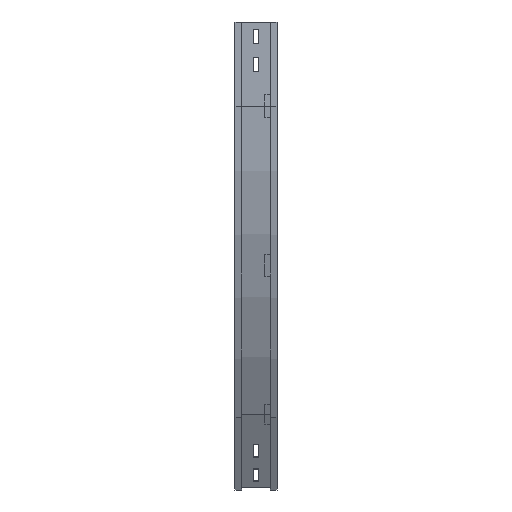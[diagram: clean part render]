
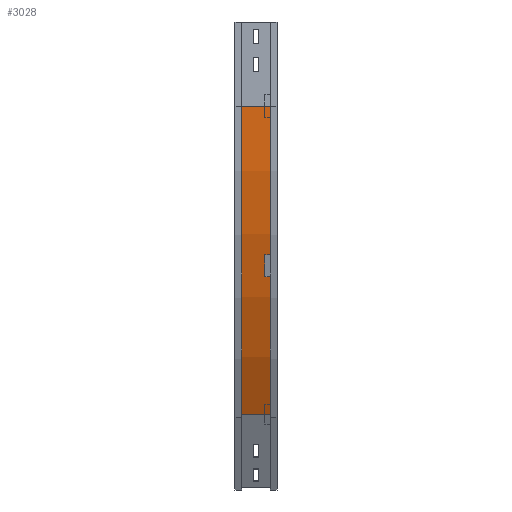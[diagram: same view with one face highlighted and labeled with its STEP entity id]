
A CAD part, left-side view. The second image highlights one B-rep face of the part: STEP entity #3028.
In plain terms, the highlighted cylindrical face has radius 1100 mm (diameter 2200 mm), a partial arc.
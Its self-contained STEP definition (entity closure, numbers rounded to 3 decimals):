
#359 = EDGE_CURVE ( 'NONE', #1405, #1755, #3126, .T. ) ;
#401 = CARTESIAN_POINT ( 'NONE',  ( 9., 63., -150. ) ) ;
#449 = LINE ( 'NONE', #3027, #3227 ) ;
#467 = AXIS2_PLACEMENT_3D ( 'NONE', #2019, #2493, #1202 ) ;
#567 = ORIENTED_EDGE ( 'NONE', *, *, #1302, .F. ) ;
#578 = CIRCLE ( 'NONE', #875, 1100. ) ;
#618 = VERTEX_POINT ( 'NONE', #2246 ) ;
#619 = AXIS2_PLACEMENT_3D ( 'NONE', #1694, #2744, #1364 ) ;
#623 = CARTESIAN_POINT ( 'NONE',  ( 9., 12., -150. ) ) ;
#875 = AXIS2_PLACEMENT_3D ( 'NONE', #1988, #976, #2499 ) ;
#976 = DIRECTION ( 'NONE',  ( 0., -1., 0. ) ) ;
#993 = CARTESIAN_POINT ( 'NONE',  ( 156.372, 12., -700. ) ) ;
#1202 = DIRECTION ( 'NONE',  ( 0., 0., -1. ) ) ;
#1302 = EDGE_CURVE ( 'NONE', #1755, #1336, #1358, .T. ) ;
#1336 = VERTEX_POINT ( 'NONE', #993 ) ;
#1358 = CIRCLE ( 'NONE', #619, 1100. ) ;
#1364 = DIRECTION ( 'NONE',  ( -1., 0., 0. ) ) ;
#1405 = VERTEX_POINT ( 'NONE', #401 ) ;
#1456 = FACE_OUTER_BOUND ( 'NONE', #1806, .T. ) ;
#1694 = CARTESIAN_POINT ( 'NONE',  ( 1109., 12., -150. ) ) ;
#1755 = VERTEX_POINT ( 'NONE', #623 ) ;
#1786 = ORIENTED_EDGE ( 'NONE', *, *, #359, .F. ) ;
#1806 = EDGE_LOOP ( 'NONE', ( #567, #1786, #2079, #2687 ) ) ;
#1826 = DIRECTION ( 'NONE',  ( 0., -1., 0. ) ) ;
#1988 = CARTESIAN_POINT ( 'NONE',  ( 1109., 63., -150. ) ) ;
#2019 = CARTESIAN_POINT ( 'NONE',  ( 1109., 0., -150. ) ) ;
#2079 = ORIENTED_EDGE ( 'NONE', *, *, #2580, .T. ) ;
#2246 = CARTESIAN_POINT ( 'NONE',  ( 156.372, 63., -700. ) ) ;
#2476 = CYLINDRICAL_SURFACE ( 'NONE', #467, 1100. ) ;
#2493 = DIRECTION ( 'NONE',  ( 0., -1., 0. ) ) ;
#2499 = DIRECTION ( 'NONE',  ( -1., 0., 0. ) ) ;
#2580 = EDGE_CURVE ( 'NONE', #1405, #618, #578, .T. ) ;
#2595 = VECTOR ( 'NONE', #1826, 1000. ) ;
#2615 = CARTESIAN_POINT ( 'NONE',  ( 9., 12., -150. ) ) ;
#2687 = ORIENTED_EDGE ( 'NONE', *, *, #2984, .T. ) ;
#2744 = DIRECTION ( 'NONE',  ( 0., -1., 0. ) ) ;
#2788 = DIRECTION ( 'NONE',  ( 0., -1., 0. ) ) ;
#2984 = EDGE_CURVE ( 'NONE', #618, #1336, #449, .T. ) ;
#3027 = CARTESIAN_POINT ( 'NONE',  ( 156.372, 12., -700. ) ) ;
#3028 = ADVANCED_FACE ( 'NONE', ( #1456 ), #2476, .T. ) ;
#3126 = LINE ( 'NONE', #2615, #2595 ) ;
#3227 = VECTOR ( 'NONE', #2788, 1000. ) ;
